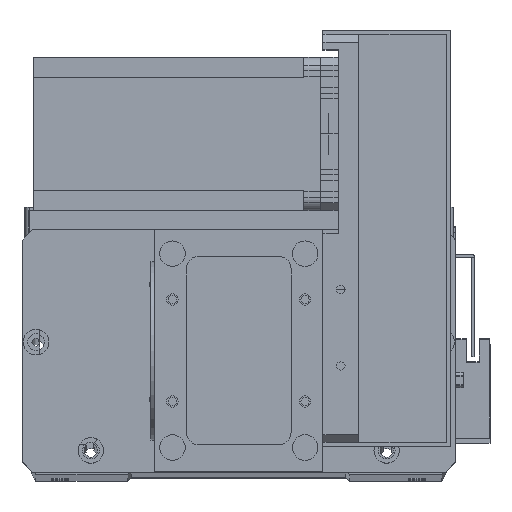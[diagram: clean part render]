
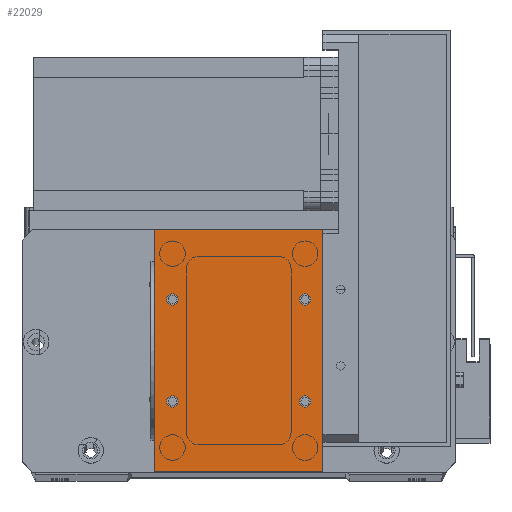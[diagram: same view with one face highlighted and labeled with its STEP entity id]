
A CAD part, top view. The second image highlights one B-rep face of the part: STEP entity #22029.
In plain terms, the highlighted planar face has unit normal (0, 0, 1).
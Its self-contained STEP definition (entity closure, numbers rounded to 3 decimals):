
#238 = DIRECTION ( 'NONE',  ( 0., 0., 1. ) ) ;
#646 = LINE ( 'NONE', #19102, #26494 ) ;
#1143 = EDGE_CURVE ( 'NONE', #25256, #23654, #19598, .T. ) ;
#1546 = CARTESIAN_POINT ( 'NONE',  ( 4.75, 27.5, 2. ) ) ;
#2029 = DIRECTION ( 'NONE',  ( 0., 1., 0. ) ) ;
#2288 = CARTESIAN_POINT ( 'NONE',  ( 7., 67.5, 2. ) ) ;
#2552 = AXIS2_PLACEMENT_3D ( 'NONE', #9766, #9595, #9437 ) ;
#3219 = PLANE ( 'NONE',  #4695 ) ;
#3314 = CARTESIAN_POINT ( 'NONE',  ( 66., 95., 2. ) ) ;
#3706 = CARTESIAN_POINT ( 'NONE',  ( 0., 0., 2. ) ) ;
#3801 = EDGE_CURVE ( 'NONE', #23654, #25256, #8095, .T. ) ;
#3944 = EDGE_CURVE ( 'NONE', #7725, #20485, #4929, .T. ) ;
#4404 = DIRECTION ( 'NONE',  ( 0., 0., 1. ) ) ;
#4567 = VERTEX_POINT ( 'NONE', #3314 ) ;
#4695 = AXIS2_PLACEMENT_3D ( 'NONE', #23161, #8301, #25769 ) ;
#4839 = DIRECTION ( 'NONE',  ( 1., 0., 0. ) ) ;
#4929 = CIRCLE ( 'NONE', #2552, 2.25 ) ;
#4984 = VERTEX_POINT ( 'NONE', #17105 ) ;
#5029 = LINE ( 'NONE', #22964, #5817 ) ;
#5817 = VECTOR ( 'NONE', #7995, 1000. ) ;
#6033 = EDGE_LOOP ( 'NONE', ( #22446, #15189 ) ) ;
#6365 = ORIENTED_EDGE ( 'NONE', *, *, #30109, .T. ) ;
#7513 = DIRECTION ( 'NONE',  ( 0., 0., 1. ) ) ;
#7725 = VERTEX_POINT ( 'NONE', #1546 ) ;
#7773 = AXIS2_PLACEMENT_3D ( 'NONE', #25450, #16951, #19997 ) ;
#7995 = DIRECTION ( 'NONE',  ( 0., -1., 0. ) ) ;
#8095 = CIRCLE ( 'NONE', #9922, 2.25 ) ;
#8301 = DIRECTION ( 'NONE',  ( 0., 0., -1. ) ) ;
#8950 = FACE_OUTER_BOUND ( 'NONE', #26484, .T. ) ;
#9111 = EDGE_CURVE ( 'NONE', #4567, #16592, #15998, .T. ) ;
#9332 = AXIS2_PLACEMENT_3D ( 'NONE', #22504, #7513, #25007 ) ;
#9437 = DIRECTION ( 'NONE',  ( 1., 0., 0. ) ) ;
#9595 = DIRECTION ( 'NONE',  ( 0., 0., 1. ) ) ;
#9766 = CARTESIAN_POINT ( 'NONE',  ( 7., 27.5, 2. ) ) ;
#9922 = AXIS2_PLACEMENT_3D ( 'NONE', #15132, #15019, #14943 ) ;
#10832 = CARTESIAN_POINT ( 'NONE',  ( 0., 95., 2. ) ) ;
#11733 = CARTESIAN_POINT ( 'NONE',  ( 59., 67.5, 2. ) ) ;
#12874 = AXIS2_PLACEMENT_3D ( 'NONE', #11733, #29214, #14256 ) ;
#13642 = CARTESIAN_POINT ( 'NONE',  ( 61.25, 27.5, 2. ) ) ;
#13893 = EDGE_CURVE ( 'NONE', #28811, #4984, #27761, .T. ) ;
#14256 = DIRECTION ( 'NONE',  ( 1., 0., 0. ) ) ;
#14290 = CARTESIAN_POINT ( 'NONE',  ( 56.75, 67.5, 2. ) ) ;
#14367 = CIRCLE ( 'NONE', #9332, 2.25 ) ;
#14943 = DIRECTION ( 'NONE',  ( 1., 0., 0. ) ) ;
#15019 = DIRECTION ( 'NONE',  ( 0., 0., 1. ) ) ;
#15132 = CARTESIAN_POINT ( 'NONE',  ( 59., 27.5, 2. ) ) ;
#15189 = ORIENTED_EDGE ( 'NONE', *, *, #3801, .F. ) ;
#15198 = AXIS2_PLACEMENT_3D ( 'NONE', #15246, #238, #17737 ) ;
#15246 = CARTESIAN_POINT ( 'NONE',  ( 59., 67.5, 2. ) ) ;
#15525 = EDGE_CURVE ( 'NONE', #17236, #25918, #646, .T. ) ;
#15581 = EDGE_CURVE ( 'NONE', #20485, #7725, #19062, .T. ) ;
#15588 = FACE_BOUND ( 'NONE', #24360, .T. ) ;
#15998 = LINE ( 'NONE', #10832, #28506 ) ;
#16591 = ORIENTED_EDGE ( 'NONE', *, *, #15581, .F. ) ;
#16592 = VERTEX_POINT ( 'NONE', #26787 ) ;
#16951 = DIRECTION ( 'NONE',  ( 0., 0., 1. ) ) ;
#17105 = CARTESIAN_POINT ( 'NONE',  ( 61.25, 67.5, 2. ) ) ;
#17236 = VERTEX_POINT ( 'NONE', #3706 ) ;
#17478 = VECTOR ( 'NONE', #2029, 1000. ) ;
#17737 = DIRECTION ( 'NONE',  ( 1., 0., 0. ) ) ;
#18414 = ORIENTED_EDGE ( 'NONE', *, *, #29456, .F. ) ;
#19062 = CIRCLE ( 'NONE', #28202, 2.25 ) ;
#19102 = CARTESIAN_POINT ( 'NONE',  ( 0., 0., 2. ) ) ;
#19412 = CARTESIAN_POINT ( 'NONE',  ( 7., 27.5, 2. ) ) ;
#19574 = ORIENTED_EDGE ( 'NONE', *, *, #27391, .F. ) ;
#19598 = CIRCLE ( 'NONE', #7773, 2.25 ) ;
#19838 = DIRECTION ( 'NONE',  ( 0., 0., 1. ) ) ;
#19997 = DIRECTION ( 'NONE',  ( 1., 0., 0. ) ) ;
#20485 = VERTEX_POINT ( 'NONE', #31227 ) ;
#20843 = ORIENTED_EDGE ( 'NONE', *, *, #30227, .F. ) ;
#21345 = CARTESIAN_POINT ( 'NONE',  ( 66., 0., 2. ) ) ;
#21927 = DIRECTION ( 'NONE',  ( 1., 0., 0. ) ) ;
#22029 = ADVANCED_FACE ( 'NONE', ( #28897, #15588, #23021, #22249, #8950 ), #3219, .F. ) ;
#22249 = FACE_BOUND ( 'NONE', #31758, .T. ) ;
#22446 = ORIENTED_EDGE ( 'NONE', *, *, #1143, .F. ) ;
#22504 = CARTESIAN_POINT ( 'NONE',  ( 7., 67.5, 2. ) ) ;
#22810 = ORIENTED_EDGE ( 'NONE', *, *, #3944, .F. ) ;
#22964 = CARTESIAN_POINT ( 'NONE',  ( 0., 0., 2. ) ) ;
#23021 = FACE_BOUND ( 'NONE', #6033, .T. ) ;
#23161 = CARTESIAN_POINT ( 'NONE',  ( 0., 0., 2. ) ) ;
#23473 = CIRCLE ( 'NONE', #24552, 2.25 ) ;
#23531 = CARTESIAN_POINT ( 'NONE',  ( 4.75, 67.5, 2. ) ) ;
#23654 = VERTEX_POINT ( 'NONE', #27982 ) ;
#24360 = EDGE_LOOP ( 'NONE', ( #18414, #24966 ) ) ;
#24552 = AXIS2_PLACEMENT_3D ( 'NONE', #2288, #19838, #4839 ) ;
#24908 = LINE ( 'NONE', #31988, #17478 ) ;
#24966 = ORIENTED_EDGE ( 'NONE', *, *, #13893, .F. ) ;
#25007 = DIRECTION ( 'NONE',  ( 1., 0., 0. ) ) ;
#25256 = VERTEX_POINT ( 'NONE', #13642 ) ;
#25450 = CARTESIAN_POINT ( 'NONE',  ( 59., 27.5, 2. ) ) ;
#25659 = DIRECTION ( 'NONE',  ( -1., 0., 0. ) ) ;
#25769 = DIRECTION ( 'NONE',  ( -1., 0., 0. ) ) ;
#25792 = ORIENTED_EDGE ( 'NONE', *, *, #27834, .T. ) ;
#25918 = VERTEX_POINT ( 'NONE', #21345 ) ;
#26484 = EDGE_LOOP ( 'NONE', ( #25792, #30858, #6365, #32065 ) ) ;
#26494 = VECTOR ( 'NONE', #29146, 1000. ) ;
#26787 = CARTESIAN_POINT ( 'NONE',  ( 0., 95., 2. ) ) ;
#27391 = EDGE_CURVE ( 'NONE', #29435, #30655, #23473, .T. ) ;
#27761 = CIRCLE ( 'NONE', #15198, 2.25 ) ;
#27834 = EDGE_CURVE ( 'NONE', #16592, #17236, #5029, .T. ) ;
#27982 = CARTESIAN_POINT ( 'NONE',  ( 56.75, 27.5, 2. ) ) ;
#28090 = CIRCLE ( 'NONE', #12874, 2.25 ) ;
#28202 = AXIS2_PLACEMENT_3D ( 'NONE', #19412, #4404, #21927 ) ;
#28506 = VECTOR ( 'NONE', #25659, 1000. ) ;
#28535 = EDGE_LOOP ( 'NONE', ( #19574, #20843 ) ) ;
#28811 = VERTEX_POINT ( 'NONE', #14290 ) ;
#28897 = FACE_BOUND ( 'NONE', #28535, .T. ) ;
#29146 = DIRECTION ( 'NONE',  ( 1., 0., 0. ) ) ;
#29214 = DIRECTION ( 'NONE',  ( 0., 0., 1. ) ) ;
#29435 = VERTEX_POINT ( 'NONE', #31587 ) ;
#29456 = EDGE_CURVE ( 'NONE', #4984, #28811, #28090, .T. ) ;
#30109 = EDGE_CURVE ( 'NONE', #25918, #4567, #24908, .T. ) ;
#30227 = EDGE_CURVE ( 'NONE', #30655, #29435, #14367, .T. ) ;
#30655 = VERTEX_POINT ( 'NONE', #23531 ) ;
#30858 = ORIENTED_EDGE ( 'NONE', *, *, #15525, .T. ) ;
#31227 = CARTESIAN_POINT ( 'NONE',  ( 9.25, 27.5, 2. ) ) ;
#31587 = CARTESIAN_POINT ( 'NONE',  ( 9.25, 67.5, 2. ) ) ;
#31758 = EDGE_LOOP ( 'NONE', ( #16591, #22810 ) ) ;
#31988 = CARTESIAN_POINT ( 'NONE',  ( 66., 0., 2. ) ) ;
#32065 = ORIENTED_EDGE ( 'NONE', *, *, #9111, .T. ) ;
